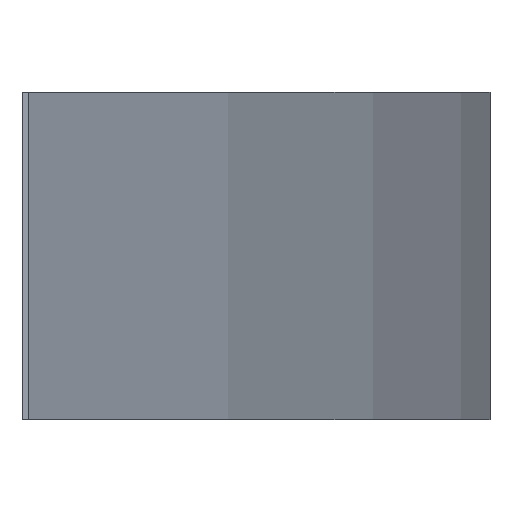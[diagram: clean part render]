
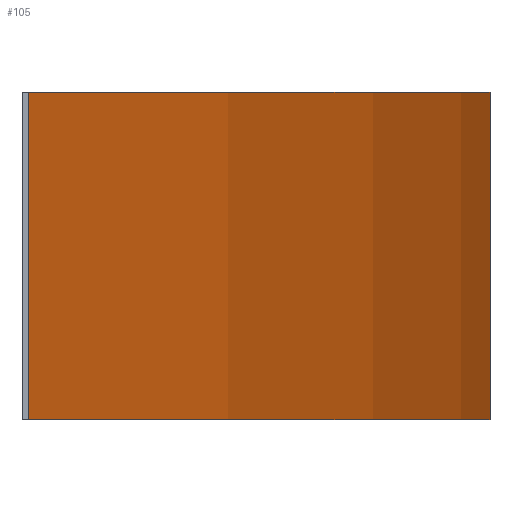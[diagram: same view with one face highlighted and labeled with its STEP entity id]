
A CAD part, left-side view. The second image highlights one B-rep face of the part: STEP entity #105.
In plain terms, the highlighted toroidal (fillet/blend) face has major radius 97.5 mm and minor radius 224 mm.
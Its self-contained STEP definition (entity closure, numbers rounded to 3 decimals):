
#105 = ADVANCED_FACE( '', ( #173 ), #174, .T. );
#173 = FACE_OUTER_BOUND( '', #241, .T. );
#174 = TOROIDAL_SURFACE( '', #242, 97.5, 224. );
#241 = EDGE_LOOP( '', ( #491, #492, #493, #494 ) );
#242 = AXIS2_PLACEMENT_3D( '', #495, #496, #497 );
#491 = ORIENTED_EDGE( '', *, *, #531, .T. );
#492 = ORIENTED_EDGE( '', *, *, #551, .T. );
#493 = ORIENTED_EDGE( '', *, *, #529, .T. );
#494 = ORIENTED_EDGE( '', *, *, #578, .F. );
#495 = CARTESIAN_POINT( '', ( 112., 290.5, 0. ) );
#496 = DIRECTION( '', ( 0., 0., -1. ) );
#497 = DIRECTION( '', ( -1., 0., 0. ) );
#529 = EDGE_CURVE( '', #636, #640, #642, .T. );
#531 = EDGE_CURVE( '', #646, #643, #647, .T. );
#551 = EDGE_CURVE( '', #643, #636, #677, .T. );
#578 = EDGE_CURVE( '', #646, #640, #713, .T. );
#636 = VERTEX_POINT( '', #1017 );
#640 = VERTEX_POINT( '', #1023 );
#642 = B_SPLINE_CURVE_WITH_KNOTS( '', 3, ( #1026, #1027, #1028, #1029, #1030, #1031, #1032, #1033, #1034, #1035 ), .UNSPECIFIED., .F., .F., ( 4, 2, 2, 2, 4 ), ( 377.666, 379.578, 388.152, 396.726, 398.639 ), .UNSPECIFIED. );
#643 = VERTEX_POINT( '', #1036 );
#646 = VERTEX_POINT( '', #1040 );
#647 = B_SPLINE_CURVE_WITH_KNOTS( '', 3, ( #1041, #1042, #1043, #1044, #1045, #1046, #1047, #1048, #1049, #1050 ), .UNSPECIFIED., .F., .F., ( 4, 2, 2, 2, 4 ), ( 1153.971, 1155.883, 1164.457, 1173.031, 1174.943 ), .UNSPECIFIED. );
#677 = CIRCLE( '', #1292, 321.242 );
#713 = CIRCLE( '', #1536, 321.242 );
#1017 = CARTESIAN_POINT( '', ( -24.25, -0.416, 10.75 ) );
#1023 = CARTESIAN_POINT( '', ( -24.25, -0.416, -10.75 ) );
#1026 = CARTESIAN_POINT( '', ( -24.25, -0.416, 10.75 ) );
#1027 = CARTESIAN_POINT( '', ( -24.25, -0.452, 10.083 ) );
#1028 = CARTESIAN_POINT( '', ( -24.25, -0.484, 9.418 ) );
#1029 = CARTESIAN_POINT( '', ( -24.25, -0.641, 5.783 ) );
#1030 = CARTESIAN_POINT( '', ( -24.25, -0.701, 2.858 ) );
#1031 = CARTESIAN_POINT( '', ( -24.25, -0.701, -2.858 ) );
#1032 = CARTESIAN_POINT( '', ( -24.25, -0.641, -5.783 ) );
#1033 = CARTESIAN_POINT( '', ( -24.25, -0.484, -9.418 ) );
#1034 = CARTESIAN_POINT( '', ( -24.25, -0.452, -10.083 ) );
#1035 = CARTESIAN_POINT( '', ( -24.25, -0.416, -10.75 ) );
#1036 = CARTESIAN_POINT( '', ( 248.25, -0.416, 10.75 ) );
#1040 = CARTESIAN_POINT( '', ( 248.25, -0.416, -10.75 ) );
#1041 = CARTESIAN_POINT( '', ( 248.25, -0.416, -10.75 ) );
#1042 = CARTESIAN_POINT( '', ( 248.25, -0.452, -10.083 ) );
#1043 = CARTESIAN_POINT( '', ( 248.25, -0.484, -9.418 ) );
#1044 = CARTESIAN_POINT( '', ( 248.25, -0.641, -5.783 ) );
#1045 = CARTESIAN_POINT( '', ( 248.25, -0.701, -2.858 ) );
#1046 = CARTESIAN_POINT( '', ( 248.25, -0.701, 2.858 ) );
#1047 = CARTESIAN_POINT( '', ( 248.25, -0.641, 5.783 ) );
#1048 = CARTESIAN_POINT( '', ( 248.25, -0.484, 9.418 ) );
#1049 = CARTESIAN_POINT( '', ( 248.25, -0.452, 10.083 ) );
#1050 = CARTESIAN_POINT( '', ( 248.25, -0.416, 10.75 ) );
#1292 = AXIS2_PLACEMENT_3D( '', #1597, #1598, #1599 );
#1536 = AXIS2_PLACEMENT_3D( '', #1639, #1640, #1641 );
#1597 = CARTESIAN_POINT( '', ( 112., 290.5, 10.75 ) );
#1598 = DIRECTION( '', ( 0., 0., -1. ) );
#1599 = DIRECTION( '', ( 0.574, -0.819, 0. ) );
#1639 = CARTESIAN_POINT( '', ( 112., 290.5, -10.75 ) );
#1640 = DIRECTION( '', ( 0., 0., -1. ) );
#1641 = DIRECTION( '', ( 0.574, -0.819, 0. ) );
